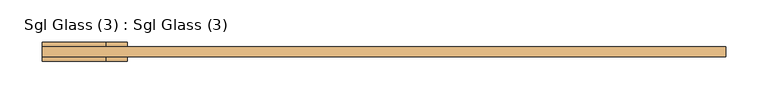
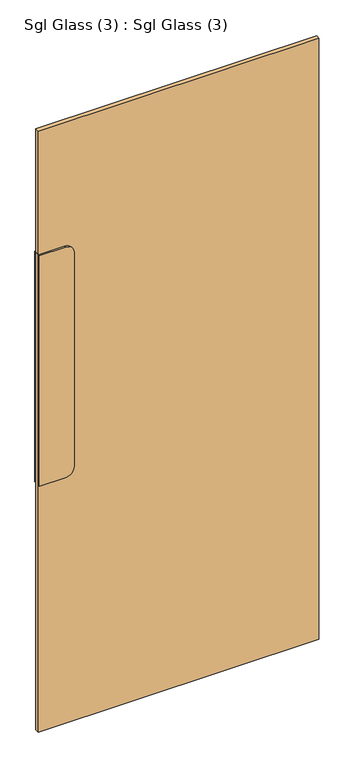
"""IFC4 building model written with IfcOpenShell, lengths in millimetres: door geometry, Sgl Glass (3) : Sgl Glass (3)."""

from ifc_helpers import new_model, si_unit, point, frame, frame_2d, origin, origin_with_axes, place, context, project, spatial, polyline, circle_curve, trimmed, segment, composite_curve, outline, extrude, source, transform, mapped, element, save


def sgl_glass_3_sgl_glass_3_7d3c2ecc(model_context):
    return source(origin(), model_context, "Body", "SweptSolid", [
        extrude(outline(polyline([(403.1249999, -50.0), (-403.1249999, -50.0), (-403.1249999, -38.0), (403.1249999, -38.0), (403.1249999, -50.0)])), origin_with_axes(), (0.0, 0.0, 1.0), 1825.0),
        extrude(outline(composite_curve([segment(polyline([(1450.0, -328.1249999), (1450.0, -403.1249999), (750.0, -403.1249999), (750.0, -328.1249999)]), True, "CONTINUOUS"), segment(trimmed(circle_curve(frame_2d((775.0, -328.1249999)), 25.0), [point((750.0, -328.1249999))], [point((775.0, -303.1249999))], False, "CARTESIAN"), True, "CONTINUOUS"), segment(polyline([(775.0, -303.1249999), (1425.0, -303.1249999)]), True, "CONTINUOUS"), segment(trimmed(circle_curve(frame_2d((1425.0, -328.1249999)), 25.0), [point((1425.0, -303.1249999))], [point((1450.0, -328.1249999))], False, "CARTESIAN"), True, "CONTINUOUS")], self_intersect=False)), frame((0.0, -55.0, 0.0), z_axis=(0.0, 1.0, 0.0), x_axis=(0.0, 0.0, 1.0)), (0.0, 0.0, 1.0), 22.0),
    ])


if __name__ == "__main__":
    model = new_model("IFC4")
    model_context = context("Model", 3, world=origin())
    ifc_project = project(units=[si_unit("LENGTHUNIT", "METRE", prefix="MILLI")], contexts=[model_context])
    site = spatial("IfcSite", under=ifc_project)
    building = spatial("IfcBuilding", under=site)
    placement = place(None, origin())
    sgl_glass_3_sgl_glass_3_shape = sgl_glass_3_sgl_glass_3_7d3c2ecc(model_context)
    element("IfcDoor", 1, ObjectType="Sgl Glass (3) : Sgl Glass (3)", at=placement, inside=building, context=model_context, shape_type="MappedRepresentation", body=[
        mapped(sgl_glass_3_sgl_glass_3_shape, transform((0.0, 0.0, 0.0), x_axis=(1.0, 0.0, 0.0), y_axis=(0.0, 1.0, 0.0), z_axis=(0.0, 0.0, 1.0))),
    ])
    save(model, "model.ifc")
